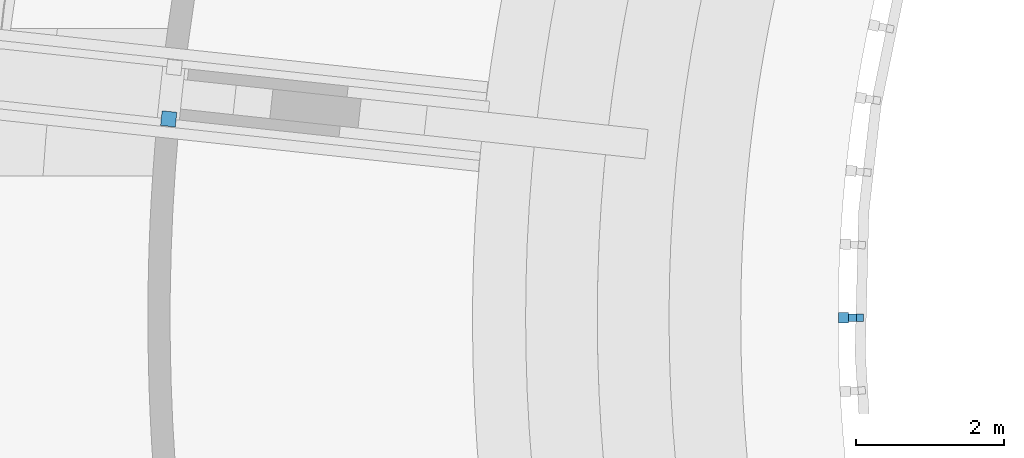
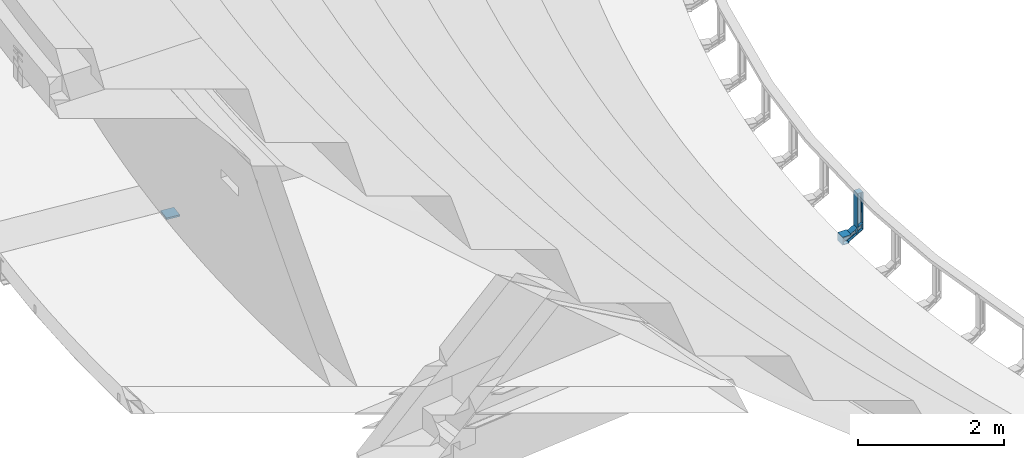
# One storey, part 41 of 68: 2 beams.
"""IFC2X3 building model written with IfcOpenShell, lengths in millimetres."""

from ifc_helpers import new_model, entity, si_unit, converted_unit, derived_unit, direction, frame, frame_2d, origin, place, context, subcontext, project, spatial, rectangle, extrude, faceted_brep, source, transform, mapped, material, type_object, type_shapes, element, save


model = new_model("IFC2X3")

# Units and contexts
model_context = context("Model", 3, precision=0.01, world=origin(), true_north=direction((6.12303176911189e-17, 1.0)))
body_context = subcontext(model_context, "Body", "Model", "MODEL_VIEW")
ifc_project = project(units=[si_unit("LENGTHUNIT", "METRE", prefix="MILLI"), si_unit("AREAUNIT", "SQUARE_METRE", prefix="MILLI"), si_unit("VOLUMEUNIT", "CUBIC_METRE"), converted_unit("PLANEANGLEUNIT", "DEGREE", entity("IfcRatioMeasure", 0.0174532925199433), si_unit("PLANEANGLEUNIT", "RADIAN"), dimensions=[0, 0, 0, 0, 0, 0, 0]), si_unit("MASSUNIT", "GRAM", prefix="KILO"), derived_unit("MASSDENSITYUNIT", [(si_unit("MASSUNIT", "GRAM", prefix="KILO"), 1), (si_unit("LENGTHUNIT", "METRE"), -3)]), derived_unit("MOMENTOFINERTIAUNIT", [(si_unit("LENGTHUNIT", "METRE"), 4)]), si_unit("TIMEUNIT", "SECOND"), si_unit("FREQUENCYUNIT", "HERTZ"), si_unit("THERMODYNAMICTEMPERATUREUNIT", "DEGREE_CELSIUS"), derived_unit("THERMALTRANSMITTANCEUNIT", [(si_unit("MASSUNIT", "GRAM", prefix="KILO"), 1), (si_unit("THERMODYNAMICTEMPERATUREUNIT", "KELVIN"), -1), (si_unit("TIMEUNIT", "SECOND"), -3)]), derived_unit("VOLUMETRICFLOWRATEUNIT", [(si_unit("LENGTHUNIT", "METRE"), 3), (si_unit("TIMEUNIT", "SECOND"), -1)]), si_unit("ELECTRICCURRENTUNIT", "AMPERE"), si_unit("ELECTRICVOLTAGEUNIT", "VOLT"), si_unit("POWERUNIT", "WATT"), si_unit("FORCEUNIT", "NEWTON", prefix="KILO"), si_unit("ILLUMINANCEUNIT", "LUX"), si_unit("LUMINOUSFLUXUNIT", "LUMEN"), si_unit("LUMINOUSINTENSITYUNIT", "CANDELA"), derived_unit("USERDEFINED", [(si_unit("MASSUNIT", "GRAM", prefix="KILO"), -1), (si_unit("LENGTHUNIT", "METRE"), -2), (si_unit("TIMEUNIT", "SECOND"), 3), (si_unit("LUMINOUSFLUXUNIT", "LUMEN"), 1)]), derived_unit("LINEARVELOCITYUNIT", [(si_unit("LENGTHUNIT", "METRE"), 1), (si_unit("TIMEUNIT", "SECOND"), -1)]), si_unit("PRESSUREUNIT", "PASCAL"), derived_unit("USERDEFINED", [(si_unit("LENGTHUNIT", "METRE"), -2), (si_unit("MASSUNIT", "GRAM", prefix="KILO"), 1), (si_unit("TIMEUNIT", "SECOND"), -2)]), derived_unit("LINEARFORCEUNIT", [(si_unit("MASSUNIT", "GRAM", prefix="KILO"), 1), (si_unit("LENGTHUNIT", "METRE"), 1), (si_unit("TIMEUNIT", "SECOND"), -2), (si_unit("LENGTHUNIT", "METRE"), -1)]), derived_unit("PLANARFORCEUNIT", [(si_unit("MASSUNIT", "GRAM", prefix="KILO"), 1), (si_unit("LENGTHUNIT", "METRE"), 1), (si_unit("TIMEUNIT", "SECOND"), -2), (si_unit("LENGTHUNIT", "METRE"), -2)])], contexts=[model_context])

# Site, building, storey
site_placement = place(None, origin())
site = spatial("IfcSite", under=ifc_project, at=site_placement, Name="Theater aan de Parade", CompositionType="ELEMENT")
building_placement = place(site_placement, origin())
building = spatial("IfcBuilding", under=site, at=building_placement, Name="Theater aan de Parade", CompositionType="ELEMENT")
storey_placement = place(building_placement, frame((0.0, 0.0, 8750.0)))
storey = spatial("IfcBuildingStorey", under=building, at=storey_placement, Name="02 tweede verdieping", CompositionType="ELEMENT", Elevation=8750.0)

# Beams
ifc_material_1 = material(Name="00_PBT_MAT_staal")
beam_type_1 = type_object("IfcBeamType", Name="28_PBT_SF_staal_strip:strip 200x30_opgelaste plaat", PredefinedType="NOTDEFINED")
beam_1_placement = place(storey_placement, frame((43891.948545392, 35151.0354491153, 0.0), z_axis=(0.0, 0.0, 1.0), x_axis=(0.994276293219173, -0.106839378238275, 0.0)))
element("IfcBeam", 1, at=beam_1_placement, inside=storey, type_object=beam_type_1, material=ifc_material_1, Name="28_PBT_SF_staal_strip:strip 200x30_opgelaste plaat", ObjectType="28_PBT_SF_staal_strip:strip 200x30_opgelaste plaat", context=body_context, shape_type="SweptSolid", body=[
    extrude(rectangle(XDim=29.9999999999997, YDim=199.999999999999, at=frame_2d((0.0, -2.1529444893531e-12), x_axis=(1.0, 0.0))), frame((0.0, 0.0, -140.0), z_axis=(1.0, 0.0, 0.0), x_axis=(0.0, 0.0, -1.0)), (0.0, 0.0, 1.0), 200.000000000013),
])
ifc_material_2 = material(Name="00_PBT_MAT_staal_S355")
beam_type_2 = type_object("IfcBeamType", Name="28_PBT_SF_staal_baluster balkon:baluster HEA100", PredefinedType="BEAM", material=ifc_material_2)
shared_shape = source(origin(), body_context, "Body", "Brep", [
    faceted_brep([(50.0, 43.537813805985, 625.0), (50.0, 43.537813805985, 635.0), (50.0, -44.0, 635.0), (50.0, -44.0, 625.0), (-50.0, 43.537813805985, 625.0), (-50.0, -44.0, 625.0), (-50.0, -44.0, 635.0), (-50.0, 43.537813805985, 635.0)], [[[0, 1, 2, 3]], [[4, 5, 6, 7]], [[3, 5, 4, 0]], [[2, 6, 5, 3]], [[1, 7, 6, 2]], [[0, 4, 7, 1]]]),
    faceted_brep([(70.0, -278.0, -133.0), (70.0, -278.0, 0.0), (70.0, -290.0, 0.0), (70.0, -290.0, -133.0), (-70.0, -278.0, -133.0), (-70.0, -290.0, -133.0), (-70.0, -290.0, 0.0), (-70.0, -278.0, 0.0)], [[[0, 1, 2, 3]], [[4, 5, 6, 7]], [[3, 5, 4, 0]], [[2, 6, 5, 3]], [[1, 7, 6, 2]], [[0, 4, 7, 1]]]),
    faceted_brep([(70.0, -278.0, -133.0), (70.0, -278.0, -124.5), (14.7499999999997, -278.0, -124.5), (11.6441714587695, -278.0, -124.091109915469), (8.74999999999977, -278.0, -122.892304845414), (6.26471862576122, -278.0, -120.985281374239), (4.35769515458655, -278.0, -118.5), (3.15889008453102, -278.0, -115.60582854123), (2.74999999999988, -278.0, -112.5), (2.74999999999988, -278.0, -20.5000000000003), (3.15889008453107, -278.0, -17.39417145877), (4.35769515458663, -278.0, -14.5000000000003), (6.26471862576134, -278.0, -12.0147186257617), (8.74999999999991, -278.0, -10.107695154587), (11.6441714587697, -278.0, -8.90889008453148), (14.7499999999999, -278.0, -8.50000000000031), (70.0, -278.0, -8.50000000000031), (70.0, -278.0, 0.0), (-70.0, -278.0, 0.0), (-70.0, -278.0, -8.50000000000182), (-14.7499999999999, -278.0, -8.50000000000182), (-11.6441714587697, -278.0, -8.90889008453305), (-8.74999999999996, -278.0, -10.1076951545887), (-6.26471862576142, -278.0, -12.0147186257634), (-4.35769515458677, -278.0, -14.500000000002), (-3.15889008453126, -278.0, -17.3941714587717), (-2.75000000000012, -278.0, -20.5000000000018), (-2.75000000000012, -278.0, -112.500000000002), (-3.15889008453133, -278.0, -115.605828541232), (-4.3576951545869, -278.0, -118.500000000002), (-6.26471862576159, -278.0, -120.98528137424), (-8.75000000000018, -278.0, -122.892304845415), (-11.6441714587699, -278.0, -124.091109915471), (-14.7500000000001, -278.0, -124.500000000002), (-70.0, -278.0, -124.500000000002), (-70.0, -278.0, -133.0), (70.0, -154.37480362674, -8.50000000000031), (70.0, -151.923048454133, 0.0), (70.0, -190.285805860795, -133.0), (70.0, -187.834050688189, -124.5), (14.7499999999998, -214.852904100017, -8.50000000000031), (14.7499999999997, -154.37480362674, -8.50000000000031), (-70.0, -154.37480362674, -8.50000000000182), (-14.7500000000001, -154.37480362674, -8.50000000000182), (-14.7500000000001, -214.852905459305, -8.50000000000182), (6.43965673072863, -216.327371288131, -11.8433150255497), (2.74999999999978, -217.521904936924, -20.5000000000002), (12.079748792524, -154.461585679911, -8.8008650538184), (9.5433951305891, -154.717580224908, -9.68837358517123), (5.36802221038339, -155.678018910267, -13.0181223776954), (7.26812237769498, -155.129950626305, -11.1180222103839), (2.74999999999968, -157.83610504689, -20.5000000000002), (3.05086505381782, -157.065893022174, -17.8297487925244), (3.9383735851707, -156.334302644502, -15.2933951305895), (2.74999999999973, -184.372749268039, -112.5), (3.93837358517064, -185.874551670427, -117.706604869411), (3.05086505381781, -185.142961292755, -115.170251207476), (5.36802221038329, -186.530835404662, -119.981877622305), (7.26812237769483, -187.078903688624, -121.881977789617), (9.54339513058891, -187.491274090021, -123.311626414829), (12.0797487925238, -187.747268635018, -124.199134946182), (14.7499999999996, -187.834050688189, -124.5), (-14.7500000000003, -187.83405068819, -124.500000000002), (-70.0, -187.83405068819, -124.500000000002), (-70.0, -190.285805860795, -133.0), (-70.0, -151.923048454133, 0.0), (-9.54339513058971, -187.491274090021, -123.311626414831), (-12.0797487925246, -187.747268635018, -124.199134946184), (-7.2681223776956, -187.078903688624, -121.881977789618), (-5.36802221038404, -186.530835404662, -119.981877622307), (-3.93837358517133, -185.874551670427, -117.706604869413), (-3.05086505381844, -185.142961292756, -115.170251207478), (-2.75000000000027, -184.37274926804, -112.500000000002), (-2.75000000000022, -217.521899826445, -20.500000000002), (-2.75000000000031, -157.83610504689, -20.500000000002), (-6.43965718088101, -216.327373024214, -11.8433145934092), (-3.05086505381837, -157.065893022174, -17.8297487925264), (-3.93837358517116, -156.334302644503, -15.2933951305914), (-7.2681223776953, -155.129950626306, -11.1180222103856), (-5.36802221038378, -155.678018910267, -13.0181223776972), (-12.0797487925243, -154.461585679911, -8.80086505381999), (-9.54339513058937, -154.717580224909, -9.68837358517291)], [[[0, 1, 2, 3, 4, 5, 6, 7, 8, 9, 10, 11, 12, 13, 14, 15, 16, 17, 18, 19, 20, 21, 22, 23, 24, 25, 26, 27, 28, 29, 30, 31, 32, 33, 34, 35]], [[36, 37, 17, 16]], [[38, 39, 1, 0]], [[36, 16, 15, 40, 41]], [[19, 42, 43, 44, 20]], [[13, 45, 14]], [[12, 45, 13]], [[46, 45, 11]], [[47, 41, 40]], [[14, 40, 15]], [[45, 12, 11]], [[48, 47, 40]], [[49, 50, 45]], [[10, 9, 46]], [[40, 45, 48]], [[11, 10, 46]], [[46, 51, 52]], [[53, 46, 52]], [[46, 53, 45]], [[45, 53, 49]], [[45, 50, 48]], [[14, 45, 40]], [[54, 51, 46, 9, 8]], [[7, 6, 55]], [[8, 7, 56]], [[56, 54, 8]], [[57, 55, 6]], [[56, 7, 55]], [[6, 5, 57]], [[58, 5, 4]], [[59, 4, 3]], [[60, 3, 2]], [[59, 58, 4]], [[61, 60, 2]], [[59, 3, 60]], [[5, 58, 57]], [[39, 61, 2, 1]], [[62, 63, 34, 33]], [[38, 0, 35, 64]], [[64, 35, 34, 63]], [[42, 19, 18, 65]], [[32, 31, 66]], [[33, 32, 67]], [[67, 62, 33]], [[68, 66, 31]], [[67, 32, 66]], [[31, 30, 68]], [[69, 30, 29]], [[70, 29, 28]], [[71, 28, 27]], [[70, 69, 29]], [[72, 71, 27]], [[70, 28, 71]], [[30, 69, 68]], [[72, 27, 26, 73, 74]], [[25, 24, 73]], [[24, 23, 75]], [[75, 22, 21]], [[76, 74, 73]], [[75, 23, 22]], [[73, 77, 76]], [[78, 79, 75]], [[44, 80, 81]], [[73, 75, 77]], [[25, 73, 26]], [[21, 44, 75]], [[21, 20, 44]], [[43, 80, 44]], [[44, 81, 75]], [[78, 75, 81]], [[75, 79, 77]], [[73, 24, 75]], [[37, 65, 18, 17]], [[39, 38, 64, 63, 62, 67, 66, 68, 69, 70, 71, 72, 74, 76, 77, 79, 78, 81, 80, 43, 42, 65, 37, 36, 41, 47, 48, 50, 49, 53, 52, 51, 54, 56, 55, 57, 58, 59, 60, 61]]]),
    faceted_brep([(50.0, 48.0, 106.188021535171), (50.0, 48.0, 115.425625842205), (50.0, -151.923048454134, 0.0), (50.0, -155.119944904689, -11.0833333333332), (50.0, 48.0, 4.57437415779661), (50.0, 48.0, 13.8119784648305), (50.0, -187.08890941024, -121.916666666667), (50.0, -190.285805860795, -133.0), (14.4999999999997, -155.119944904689, -11.0833333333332), (14.4999999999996, -56.7511342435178, 45.7099259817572), (14.4999999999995, -4.37557443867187, 75.9489695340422), (14.4999999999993, 48.0, 106.188021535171), (-50.0, -155.119944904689, -11.0833333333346), (-50.0, 48.0, 106.188021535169), (-14.5000000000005, 48.0, 106.188021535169), (-14.5000000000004, -4.37556718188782, 75.9489737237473), (-14.5000000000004, -56.7511343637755, 45.7099259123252), (-14.5000000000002, -155.119944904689, -11.0833333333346), (9.9077988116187, -155.484968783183, -12.348836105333), (6.13940978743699, -85.6560198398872, 25.1051305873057), (12.1589161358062, -155.212086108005, -11.4027780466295), (2.49999999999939, -4.37556820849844, 62.0925666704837), (2.49999999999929, 48.0, 92.3316150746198), (2.80086505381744, 48.0, 95.4149555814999), (6.04197655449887, -10.2229142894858, 68.5459327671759), (2.49999999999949, -55.1641531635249, 32.769763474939), (2.73057663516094, -158.979764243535, -24.4649567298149), (2.49999999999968, -159.915289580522, -27.7083333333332), (2.49999999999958, -107.539721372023, 2.53071507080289), (7.83315720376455, -155.92810620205, -13.8851510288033), (11.8297487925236, 48.0, 105.840612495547), (4.52236465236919, -157.25113882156, -18.4719782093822), (3.41344560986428, -158.0801906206, -21.3462212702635), (5.11802221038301, 48.0, 100.970943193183), (7.01812237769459, 48.0, 103.164989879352), (3.68837358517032, 48.0, 98.3436845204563), (9.29339513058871, 48.0, 104.815805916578), (6.01471862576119, -156.524468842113, -15.9526830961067), (2.49999999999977, -182.293564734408, -105.291666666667), (2.49999999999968, -129.917998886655, -75.052619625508), (2.49999999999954, -56.7511354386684, -32.8097113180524), (2.49999999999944, -4.3755695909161, -2.57066427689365), (2.49999999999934, 48.0, 27.6683849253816), (6.01471862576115, -185.684385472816, -117.047316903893), (6.30956465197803, -103.743785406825, -70.0679088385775), (4.52236465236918, -184.957715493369, -114.528021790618), (7.83315720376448, -186.280748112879, -119.114848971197), (9.90779881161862, -186.723885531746, -120.651163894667), (14.4999999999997, -134.713341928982, -91.677618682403), (12.1589161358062, -186.996768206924, -121.597221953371), (14.4999999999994, -4.37556748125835, -16.4270695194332), (5.87838992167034, -26.389988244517, -24.9186641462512), (14.4999999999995, -69.5444547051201, -54.0523441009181), (5.11802221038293, 48.0, 19.0290568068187), (3.4134456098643, -184.128663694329, -111.653778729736), (2.80086505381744, 48.0, 24.5850444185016), (3.68837358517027, 48.0, 21.6563154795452), (14.4999999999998, -187.08890941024, -121.916666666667), (7.01812237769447, 48.0, 16.8350101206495), (9.29339513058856, 48.0, 15.1841940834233), (2.73057663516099, -183.229090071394, -108.535043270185), (11.8297487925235, 48.0, 14.1593875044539), (14.4999999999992, 48.0, 13.8119784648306), (-50.0, -187.088909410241, -121.916666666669), (-14.5000000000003, -187.088909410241, -121.916666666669), (-14.5000000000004, -134.713341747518, -91.6776185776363), (-14.5000000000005, -69.544456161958, -54.0523449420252), (-14.5000000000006, -4.37556766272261, -16.427069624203), (-14.5000000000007, 48.0, 13.8119784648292), (-50.0, 48.0, 13.8119784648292), (-50.0, -190.285805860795, -133.0), (-50.0, 48.0, 4.57437415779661), (-50.0, -151.923048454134, 0.0), (-50.0, 48.0, 115.425625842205), (-6.30956482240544, -103.743788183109, -70.0679106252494), (-4.52236465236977, -184.95771549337, -114.52802179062), (-3.41344560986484, -184.128663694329, -111.653778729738), (-2.50000000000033, -129.917995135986, -75.0526174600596), (-5.87838988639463, -26.3899865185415, -24.9186631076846), (-7.01812237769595, 48.0, 16.835010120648), (-9.29339513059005, 48.0, 15.1841940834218), (-6.01471862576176, -185.684385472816, -117.047316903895), (-7.8331572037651, -186.28074811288, -119.114848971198), (-11.829748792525, 48.0, 14.1593875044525), (-2.50000000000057, -4.37556959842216, -2.57066428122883), (-5.11802221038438, 48.0, 19.0290568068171), (-2.7305766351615, -183.229090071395, -108.535043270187), (-2.50000000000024, -182.293564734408, -105.291666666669), (-9.90779881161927, -186.723885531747, -120.651163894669), (-12.1589161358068, -186.996768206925, -121.597221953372), (-2.50000000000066, 48.0, 27.6683849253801), (-2.80086505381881, 48.0, 24.5850444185), (-2.50000000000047, -56.7511295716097, -32.809707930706), (-3.68837358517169, 48.0, 21.6563154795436), (-2.50000000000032, -159.915289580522, -27.708333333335), (-2.50000000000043, -107.539724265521, 2.53071340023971), (-2.50000000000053, -55.1641511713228, 32.7697646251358), (-2.50000000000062, -4.37556531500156, 62.0925683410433), (-2.50000000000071, 48.0, 92.3316150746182), (-2.73057663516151, -158.979764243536, -24.464956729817), (-11.8297487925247, 48.0, 105.840612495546), (-7.83315720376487, -155.92810620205, -13.885151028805), (-6.13940988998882, -85.6560228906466, 25.1051289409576), (-6.01471862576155, -156.524468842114, -15.9526830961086), (-6.04197656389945, -10.2229155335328, 68.5459320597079), (-7.0181223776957, 48.0, 103.16498987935), (-5.11802221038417, 48.0, 100.970943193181), (-9.90779881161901, -155.484968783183, -12.3488361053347), (-4.52236465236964, -157.25113882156, -18.4719782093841), (-3.68837358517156, 48.0, 98.3436845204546), (-2.80086505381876, 48.0, 95.4149555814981), (-12.1589161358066, -155.212086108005, -11.402778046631), (-3.41344560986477, -158.080190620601, -21.3462212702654), (-9.29339513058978, 48.0, 104.815805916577)], [[[0, 1, 2, 3]], [[4, 5, 6, 7]], [[0, 3, 8, 9, 10, 11]], [[12, 13, 14, 15, 16, 17]], [[18, 19, 20]], [[21, 22, 23]], [[24, 25, 21]], [[26, 27, 28]], [[19, 18, 29]], [[25, 19, 28]], [[9, 24, 10]], [[20, 9, 8]], [[19, 9, 20]], [[19, 24, 9]], [[25, 24, 19]], [[30, 11, 10]], [[28, 31, 32]], [[24, 33, 34]], [[33, 24, 35]], [[35, 24, 21]], [[36, 24, 34]], [[28, 32, 26]], [[31, 19, 37]], [[30, 10, 36]], [[31, 28, 19]], [[35, 21, 23]], [[36, 10, 24]], [[37, 19, 29]], [[27, 38, 39, 40, 41, 42, 22, 21, 25, 28]], [[43, 44, 45]], [[46, 47, 48]], [[48, 47, 49]], [[50, 51, 52]], [[53, 41, 51]], [[54, 45, 44]], [[55, 42, 41]], [[55, 41, 56]], [[49, 57, 48]], [[40, 39, 44]], [[58, 53, 51]], [[43, 46, 44]], [[51, 59, 58]], [[39, 54, 44]], [[54, 39, 60]], [[40, 44, 51]], [[61, 50, 62]], [[41, 40, 51]], [[44, 48, 52]], [[44, 46, 48]], [[56, 41, 53]], [[39, 38, 60]], [[59, 50, 61]], [[51, 44, 52]], [[51, 50, 59]], [[5, 62, 50, 52, 48, 57, 6]], [[63, 64, 65, 66, 67, 68, 69]], [[4, 7, 70, 71]], [[71, 70, 63, 69]], [[13, 12, 72, 73]], [[66, 65, 74]], [[75, 76, 74]], [[77, 74, 76]], [[78, 79, 80]], [[81, 74, 82]], [[83, 67, 80]], [[78, 84, 85]], [[86, 87, 77]], [[88, 82, 65]], [[88, 65, 89]], [[84, 90, 91]], [[66, 74, 78]], [[78, 80, 67]], [[92, 78, 74]], [[83, 68, 67]], [[84, 78, 92]], [[93, 84, 91]], [[93, 85, 84]], [[74, 65, 82]], [[78, 85, 79]], [[64, 89, 65]], [[74, 81, 75]], [[74, 77, 92]], [[86, 77, 76]], [[66, 78, 67]], [[94, 95, 96, 97, 98, 90, 84, 92, 77, 87]], [[94, 99, 95]], [[15, 14, 100]], [[101, 102, 103]], [[104, 105, 106]], [[107, 102, 101]], [[103, 102, 108]], [[16, 104, 102]], [[104, 96, 102]], [[102, 95, 108]], [[109, 110, 97]], [[107, 111, 102]], [[96, 104, 97]], [[109, 104, 106]], [[112, 95, 99]], [[16, 15, 104]], [[95, 112, 108]], [[113, 15, 100]], [[16, 102, 111]], [[97, 104, 109]], [[102, 96, 95]], [[113, 104, 15]], [[111, 17, 16]], [[105, 104, 113]], [[110, 98, 97]], [[1, 73, 72, 2]], [[5, 4, 71, 69, 68, 83, 80, 79, 85, 93, 91, 90, 98, 110, 109, 106, 105, 113, 100, 14, 13, 73, 1, 0, 11, 30, 36, 34, 33, 35, 23, 22, 42, 55, 56, 53, 58, 59, 61, 62]], [[3, 2, 72, 12, 17, 111, 107, 101, 103, 108, 112, 99, 94, 87, 86, 76, 75, 81, 82, 88, 89, 64, 63, 70, 7, 6, 57, 49, 47, 46, 43, 45, 54, 60, 38, 27, 26, 32, 31, 37, 29, 18, 20, 8]]]),
    faceted_brep([(50.0, -48.0, 625.0), (50.0, -40.0, 625.0), (14.4999999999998, -40.0, 625.0), (11.3941714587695, -39.5911099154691, 625.0), (8.4999999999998, -38.3923048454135, 625.0), (6.01471862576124, -36.4852813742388, 625.0), (4.10769515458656, -34.0, 625.0), (2.90889008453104, -31.1058285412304, 625.0), (2.49999999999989, -28.0, 625.0), (2.49999999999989, 28.0, 625.0), (2.90889008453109, 31.10582854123, 625.0), (4.10769515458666, 34.0, 625.0), (6.01471862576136, 36.4852813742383, 625.0), (8.49999999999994, 38.392304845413, 625.0), (11.3941714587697, 39.5911099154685, 625.0), (14.4999999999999, 40.0, 625.0), (50.0, 40.0, 625.0), (50.0, 48.0, 625.0), (-50.0, 48.0, 625.0), (-50.0, 40.0, 625.0), (-14.4999999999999, 40.0, 625.0), (-11.3941714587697, 39.5911099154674, 625.0), (-8.49999999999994, 38.3923048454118, 625.0), (-6.01471862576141, 36.4852813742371, 625.0), (-4.10769515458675, 34.0, 625.0), (-2.90889008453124, 31.1058285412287, 625.0), (-2.50000000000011, 28.0, 625.0), (-2.5000000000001, -28.0, 625.0), (-2.90889008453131, -31.1058285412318, 625.0), (-4.10769515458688, -34.0, 625.0), (-6.01471862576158, -36.4852813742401, 625.0), (-8.50000000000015, -38.3923048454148, 625.0), (-11.3941714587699, -39.5911099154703, 625.0), (-14.5000000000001, -40.0, 625.0), (-50.0, -40.0, 625.0), (-50.0, -48.0, 625.0), (50.0, 48.0, 165.0), (50.0, 40.0, -0.0444279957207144), (50.0, 48.0, 4.57437415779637), (50.0, -40.0, -46.2324495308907), (50.0, -48.0, -50.8512516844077), (14.4999999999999, 40.0, 564.521909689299), (14.4999999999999, 40.0, 468.738898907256), (14.4999999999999, 40.0, 390.608336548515), (14.4999999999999, 40.0, 312.477797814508), (14.4999999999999, 40.0, 234.347235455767), (14.4999999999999, 40.0, 156.216673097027), (14.4999999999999, 40.0, 60.4336623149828), (14.4999999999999, 40.0, -0.0444279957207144), (-50.0, 40.0, -0.0444279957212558), (-14.4999999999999, 40.0, -0.0444279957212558), (-14.4999999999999, 40.0, 60.4336769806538), (-14.4999999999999, 40.0, 156.21667900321), (-14.5, 40.0, 234.34724221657), (-14.5, 40.0, 312.477786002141), (-14.5, 40.0, 390.608329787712), (-14.5, 40.0, 468.738893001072), (-14.5, 40.0, 564.521895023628), (6.01471822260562, 36.4852809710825, 534.282851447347), (2.49999999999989, 28.0, 504.043808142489), (2.49999999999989, 28.0, 429.969876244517), (6.38111782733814, 36.8365011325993, 422.595542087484), (9.29339513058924, 38.8116264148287, -0.730535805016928), (5.87838991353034, 36.3467262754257, 83.7445110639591), (7.01812237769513, 37.3819777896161, -1.55594382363), (2.49999999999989, 28.0, 564.521899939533), (5.11802221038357, 35.4818776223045, -2.65296716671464), (11.8297487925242, 39.6991349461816, -0.21813251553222), (6.03175640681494, 36.5022850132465, 273.412504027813), (5.33717277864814, 35.7487158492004, 157.721305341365), (2.49999999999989, 28.0, 113.983560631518), (2.49999999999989, 28.0, 53.5054688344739), (2.49999999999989, 28.0, -6.97263122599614), (2.80086505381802, 30.6702512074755, -5.43096097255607), (6.45584074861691, 36.9045775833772, 351.543056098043), (3.68837358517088, 33.2066048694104, -3.96659650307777), (2.49999999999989, 28.0, 234.939752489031), (2.49999999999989, 28.0, 174.461652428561), (2.49999999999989, 28.0, 332.454810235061), (2.49999999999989, -28.0, 564.521918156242), (2.49999999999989, -28.0, 504.043820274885), (2.49999999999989, -28.0, 443.565722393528), (2.49999999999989, -28.0, 383.08762451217), (2.49999999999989, -28.0, 277.489656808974), (2.49999999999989, -28.0, 171.891689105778), (2.49999999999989, -28.0, 81.6519494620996), (2.49999999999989, -28.0, 21.1738515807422), (2.49999999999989, -28.0, -39.3042463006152), (14.4999999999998, -40.0, 564.521903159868), (14.4999999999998, -40.0, 457.191883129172), (6.01471890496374, -36.4852816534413, 534.282850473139), (14.4999999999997, -40.0, 14.24565628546), (5.87838987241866, -36.3467262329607, 51.4128968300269), (14.4999999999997, -40.0, 74.723753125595), (14.4999999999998, -40.0, 182.053764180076), (7.12980766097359, -37.469966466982, 128.3887480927), (14.4999999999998, -40.0, 373.287829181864), (14.4999999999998, -40.0, 289.383775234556), (5.68142979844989, -36.138354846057, 331.33579860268), (6.48410362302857, -36.9300282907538, 264.631830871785), (5.11802221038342, -35.481877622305, -43.6239103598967), (3.68837358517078, -33.2066048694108, -42.3102810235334), (14.4999999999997, -40.0, -46.2324495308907), (11.8297487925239, -39.6991349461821, -46.058745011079), (9.29339513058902, -38.8116264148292, -45.5463417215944), (7.01812237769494, -37.3819777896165, -44.7209337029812), (5.85986411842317, -36.3275477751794, 197.731198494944), (5.34384824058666, -35.7566026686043, 460.437179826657), (2.80086505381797, -30.6702512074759, -40.8459165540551), (6.59968170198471, -37.0324399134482, 396.193688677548), (-50.0, -40.0, -46.2324495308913), (-14.5000000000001, -40.0, 564.521911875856), (-14.5000000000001, -40.0, 457.191887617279), (-14.5000000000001, -40.0, 373.287826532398), (-14.5000000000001, -40.0, 289.383775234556), (-14.5000000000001, -40.0, 205.479723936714), (-14.5000000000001, -40.0, 121.575662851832), (-14.5000000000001, -40.0, 14.2456483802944), (-14.5000000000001, -40.0, -46.2324495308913), (-50.0, -48.0, -50.8512516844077), (-50.0, 48.0, 165.0), (-50.0, 48.0, 4.57437415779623), (-6.01471845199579, -36.4852812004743, 534.282853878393), (-2.5000000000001, -28.0, 504.043796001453), (-5.34384807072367, -35.7566024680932, 460.437182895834), (-2.5000000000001, -28.0, 564.521907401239), (-9.29339513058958, -38.8116264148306, -45.5463417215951), (-7.01812237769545, -37.3819777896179, -44.720933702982), (-6.37223200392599, -36.8283286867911, 262.824412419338), (-5.68142973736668, -36.1383547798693, 331.33579885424), (-6.59968165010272, -37.0324398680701, 396.193689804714), (-2.5000000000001, -28.0, 383.087610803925), (-11.8297487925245, -39.6991349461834, -46.0587450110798), (-5.11802221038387, -35.4818776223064, -43.6239103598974), (-6.18948395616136, -36.6565191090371, 51.4128959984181), (-3.68837358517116, -33.2066048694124, -42.3102810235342), (-2.5000000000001, -28.0, 21.1738462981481), (-2.80086505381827, -30.6702512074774, -40.8459165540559), (-5.35181665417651, -35.7659990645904, 125.002033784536), (-2.5000000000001, -28.0, 81.6519388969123), (-2.5000000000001, -28.0, -39.304246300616), (-2.5000000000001, -28.0, 277.489641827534), (-2.5000000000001, -28.0, 443.565703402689), (-2.5000000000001, -28.0, 171.891672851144), (-5.88018165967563, -36.3485766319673, 194.135386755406), (-2.50000000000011, 28.0, 564.521898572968), (-2.50000000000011, 28.0, 504.043797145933), (-2.50000000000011, 28.0, 429.969878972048), (-2.50000000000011, 28.0, 332.454826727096), (-2.50000000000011, 28.0, 234.939757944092), (-2.50000000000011, 28.0, 174.461656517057), (-2.50000000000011, 28.0, 113.983555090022), (-2.50000000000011, 28.0, 53.5054536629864), (-2.50000000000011, 28.0, -6.97263122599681), (-5.87838991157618, 36.3467262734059, 83.7445122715), (-9.29339513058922, 38.8116264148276, -0.730535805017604), (-5.33717271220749, 35.7487157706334, 157.721307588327), (-6.01471873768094, 36.4852814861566, 534.282853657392), (-6.38111797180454, 36.8365012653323, 422.595548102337), (-6.45584072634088, 36.9045775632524, 351.543059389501), (-3.688373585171, 33.2066048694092, -3.96659650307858), (-2.80086505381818, 30.6702512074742, -5.43096097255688), (-7.01812237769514, 37.3819777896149, -1.55594382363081), (-5.11802221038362, 35.4818776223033, -2.65296716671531), (-6.03175635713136, 36.5022849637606, 273.412506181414), (-11.8297487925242, 39.6991349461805, -0.218132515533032)], [[[0, 1, 2, 3, 4, 5, 6, 7, 8, 9, 10, 11, 12, 13, 14, 15, 16, 17, 18, 19, 20, 21, 22, 23, 24, 25, 26, 27, 28, 29, 30, 31, 32, 33, 34, 35]], [[36, 17, 16, 37, 38]], [[39, 1, 0, 40]], [[37, 16, 15, 41, 42, 43, 44, 45, 46, 47, 48]], [[19, 49, 50, 51, 52, 53, 54, 55, 56, 57, 20]], [[13, 12, 58]], [[11, 58, 12]], [[58, 42, 41]], [[59, 60, 61]], [[62, 63, 64]], [[65, 11, 10]], [[66, 64, 63]], [[67, 48, 47]], [[45, 68, 69]], [[69, 70, 63]], [[65, 59, 58]], [[46, 63, 47]], [[63, 46, 69]], [[67, 47, 62]], [[41, 15, 14]], [[71, 72, 73]], [[58, 41, 13]], [[44, 74, 68]], [[43, 74, 44]], [[58, 11, 65]], [[13, 41, 14]], [[75, 71, 73]], [[47, 63, 62]], [[71, 63, 70]], [[75, 66, 71]], [[59, 61, 58]], [[63, 71, 66]], [[10, 9, 65]], [[44, 68, 45]], [[69, 76, 77, 70]], [[69, 46, 45]], [[68, 78, 76]], [[74, 60, 78]], [[69, 68, 76]], [[74, 43, 61]], [[60, 74, 61]], [[68, 74, 78]], [[43, 42, 61]], [[58, 61, 42]], [[8, 79, 80, 81, 82, 83, 84, 85, 86, 87, 72, 71, 70, 77, 76, 78, 60, 59, 65, 9]], [[3, 88, 4]], [[88, 89, 90]], [[91, 92, 93]], [[4, 90, 5]], [[92, 86, 85]], [[94, 93, 95]], [[5, 90, 6]], [[96, 97, 98]], [[99, 98, 97]], [[92, 100, 101]], [[90, 80, 79]], [[6, 79, 7]], [[86, 92, 101]], [[91, 102, 103]], [[104, 91, 103]], [[90, 79, 6]], [[92, 105, 100]], [[104, 105, 91]], [[99, 94, 106]], [[90, 4, 88]], [[80, 90, 107]], [[3, 2, 88]], [[101, 108, 86]], [[108, 87, 86]], [[92, 91, 105]], [[79, 8, 7]], [[94, 95, 106]], [[85, 84, 95]], [[107, 90, 89]], [[85, 95, 92]], [[92, 95, 93]], [[106, 95, 84]], [[89, 96, 109]], [[109, 81, 107]], [[81, 109, 82]], [[96, 98, 109]], [[83, 82, 98]], [[84, 83, 106]], [[83, 98, 99]], [[94, 99, 97]], [[83, 99, 106]], [[82, 109, 98]], [[81, 80, 107]], [[89, 109, 107]], [[1, 39, 102, 91, 93, 94, 97, 96, 89, 88, 2]], [[110, 34, 33, 111, 112, 113, 114, 115, 116, 117, 118]], [[119, 40, 0, 35]], [[110, 119, 35, 34]], [[120, 121, 49, 19, 18]], [[122, 31, 30]], [[122, 111, 31]], [[122, 123, 124]], [[122, 125, 123]], [[126, 117, 127]], [[111, 33, 32]], [[31, 111, 32]], [[112, 122, 124]], [[128, 114, 129]], [[130, 131, 129]], [[132, 118, 117]], [[133, 127, 134]], [[29, 122, 30]], [[117, 116, 134]], [[135, 133, 134]], [[135, 136, 137]], [[122, 112, 111]], [[134, 136, 135]], [[134, 138, 139]], [[136, 134, 139]], [[29, 125, 122]], [[140, 137, 136]], [[132, 117, 126]], [[28, 27, 125]], [[134, 127, 117]], [[125, 29, 28]], [[138, 134, 116]], [[131, 141, 129]], [[124, 123, 142]], [[130, 112, 124]], [[113, 129, 114]], [[130, 129, 113]], [[143, 139, 138]], [[116, 115, 144]], [[144, 138, 116]], [[138, 144, 143]], [[128, 141, 144]], [[128, 115, 114]], [[141, 143, 144]], [[141, 128, 129]], [[115, 128, 144]], [[112, 130, 113]], [[130, 142, 131]], [[130, 124, 142]], [[27, 26, 145, 146, 147, 148, 149, 150, 151, 152, 153, 140, 136, 139, 143, 141, 131, 142, 123, 125]], [[22, 21, 57]], [[154, 51, 155]], [[154, 151, 156]], [[146, 145, 157]], [[23, 157, 24]], [[23, 22, 157]], [[158, 55, 159]], [[57, 56, 157]], [[152, 160, 161]], [[52, 154, 156]], [[21, 20, 57]], [[24, 145, 25]], [[25, 145, 26]], [[162, 163, 154]], [[158, 159, 147]], [[157, 145, 24]], [[161, 153, 152]], [[154, 155, 162]], [[152, 151, 154]], [[154, 163, 152]], [[148, 159, 164]], [[51, 50, 165]], [[51, 154, 52]], [[157, 22, 57]], [[152, 163, 160]], [[155, 51, 165]], [[157, 56, 158]], [[157, 158, 146]], [[156, 151, 150, 149]], [[164, 156, 149]], [[164, 54, 53]], [[53, 52, 156]], [[156, 164, 53]], [[54, 159, 55]], [[148, 164, 149]], [[164, 159, 54]], [[147, 159, 148]], [[158, 147, 146]], [[56, 55, 158]], [[120, 18, 17, 36, 38, 121]], [[39, 40, 119, 110, 118, 132, 126, 127, 133, 135, 137, 140, 153, 161, 160, 163, 162, 155, 165, 50, 49, 121, 38, 37, 48, 67, 62, 64, 66, 75, 73, 72, 87, 108, 101, 100, 105, 104, 103, 102]]]),
])
type_shapes(beam_type_2, [shared_shape])
beam_2_placement = place(storey_placement, frame((53341.8764598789, 32451.2607717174, -2040.0), z_axis=(0.0, 0.0, 1.0), x_axis=(0.0, -1.0, 0.0)))
element("IfcBeam", 2, at=beam_2_placement, inside=storey, type_object=beam_type_2, material=ifc_material_2, Name="28_PBT_SF_staal_baluster balkon:baluster HEA100", ObjectType="28_PBT_SF_staal_baluster balkon:baluster HEA100", context=body_context, shape_type="MappedRepresentation", body=[
    mapped(shared_shape, transform((0.0, 0.0, 0.0), scale=1.0)),
])

save(model, "model.ifc")
